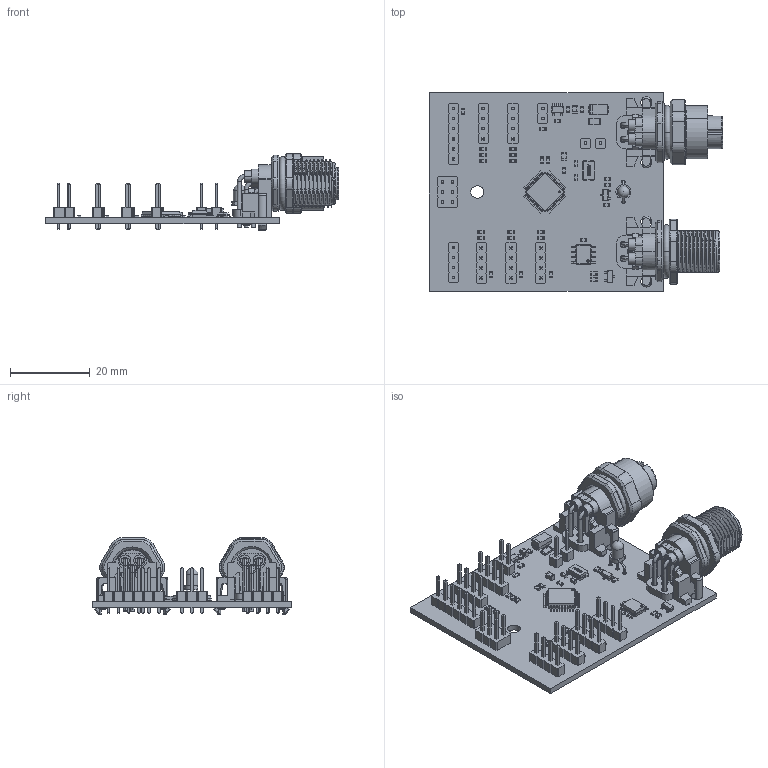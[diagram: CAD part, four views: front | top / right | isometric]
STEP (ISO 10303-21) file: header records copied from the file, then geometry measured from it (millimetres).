
FILE_DESCRIPTION(('KiCad electronic assembly'),'2;1');
FILE_NAME('SensorPack_v1.step','2026-10-06T21:10:21',('Pcbnew'),('Kicad' ),'Open CASCADE STEP processor 7.9','KiCad to STEP converter', 'Unknown');
FILE_SCHEMA(('AUTOMOTIVE_DESIGN { 1 0 10303 214 1 1 1 1 }'));
Length unit declared in the file: millimetre
Products named in the file (38): SensorPack_v1 1; R_0603_1608Metric; PinHeader_2x03_P2.54mm_Vertical; PinHeader_2x03_P254mm_Vertical; PinHeader_1x06_P2.54mm_Vertical; PinHeader_1x06_P254mm_Vertical; D_SMA; SOT-23-3; PinHeader_1x04_P2.54mm_Vertical; PinHeader_1x04_P254mm_Vertical; C_0603_1608Metric; LED_D3.0mm-3; M12A-05PMMR-SF7003-STP; M12A-05PMMR-SF7003_SW0001; m12a-05pffr-sf7003_sw0001; M12A-05PFFR-SF7003_SW0001; C_0805_2012Metric; SOT-23-5; PinHeader_1x01_P2.54mm_Vertical; PinHeader_1x01_P254mm_Vertical; LQFP-32_7x7mm_P0.8mm; PinHeader_1x02_P2.54mm_Vertical; PinHeader_1x02_P254mm_Vertical; SOIC-8_3.9x4.9mm_P1.27mm; ABM3-8.000MHZ-D2Y-T; ABM3; R_1206_3216Metric; SensorPack_v1_PCB
Assembly tree (74 placements, depth 3):
  SensorPack_v1 1
    R_0603_1608Metric  x29
      R_0603_1608Metric
    PinHeader_2x03_P2.54mm_Vertical
      PinHeader_2x03_P254mm_Vertical
    PinHeader_1x06_P2.54mm_Vertical
      PinHeader_1x06_P254mm_Vertical
    D_SMA
      D_SMA
    SOT-23-3  x2
      SOT-23-3
    PinHeader_1x04_P2.54mm_Vertical  x6
      PinHeader_1x04_P254mm_Vertical
    C_0603_1608Metric  x2
      C_0603_1608Metric
    LED_D3.0mm-3
      LED_D3.0mm-3
    M12A-05PMMR-SF7003-STP
      M12A-05PMMR-SF7003_SW0001
    m12a-05pffr-sf7003_sw0001
      M12A-05PFFR-SF7003_SW0001
    C_0805_2012Metric  x2
      C_0805_2012Metric
    SOT-23-5
      SOT-23-5
    PinHeader_1x01_P2.54mm_Vertical  x2
      PinHeader_1x01_P254mm_Vertical
    LQFP-32_7x7mm_P0.8mm
      LQFP-32_7x7mm_P0.8mm
    PinHeader_1x02_P2.54mm_Vertical
      PinHeader_1x02_P254mm_Vertical
    SOIC-8_3.9x4.9mm_P1.27mm
      SOIC-8_3.9x4.9mm_P1.27mm
    ABM3-8.000MHZ-D2Y-T
      ABM3
    R_1206_3216Metric
      R_1206_3216Metric
    SensorPack_v1_PCB
Bounding box: 73.67 x 50 x 19.2 mm (x, y, z)
Volume: 10248.5 mm3; surface area: 17283.5 mm2
Topology: 56 solids, 56 shells, 4493 faces, 11619 edges, 7372 vertices
Faces by surface type: plane 3073, cylinder 882, bspline 311, cone 180, torus 34, sphere 13
Full cylindrical faces by diameter (mm): 0.9 x3, 1 x40, 1.3 x10, 2.05 x4, 2.8 x4, 3 x1, 3.2 x1
Entity records: 130860 total; most frequent: CARTESIAN_POINT 40781, ORIENTED_EDGE 16269, DIRECTION 14567, EDGE_CURVE 8135, LINE 5785, VECTOR 5785, VERTEX_POINT 5160, AXIS2_PLACEMENT_3D 4391
